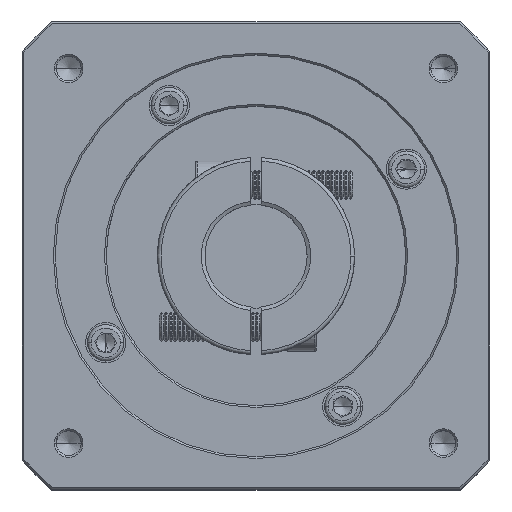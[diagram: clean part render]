
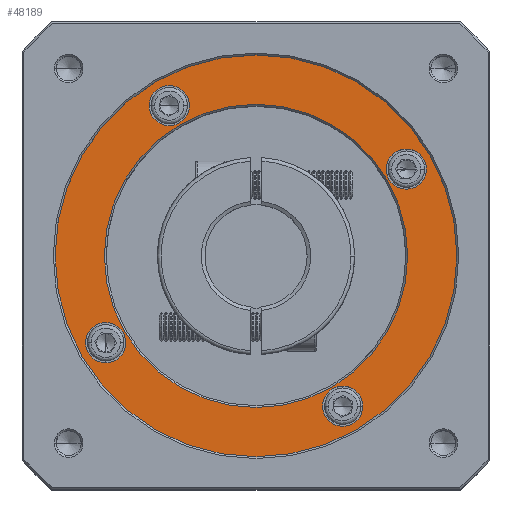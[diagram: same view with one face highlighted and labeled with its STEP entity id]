
A CAD part, top view. The second image highlights one B-rep face of the part: STEP entity #48189.
In plain terms, the highlighted planar face has unit normal (0, 0, 1).
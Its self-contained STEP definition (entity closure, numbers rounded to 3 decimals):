
#587 = DIRECTION ( 'NONE',  ( 1., 0., 0. ) ) ;
#1358 = DIRECTION ( 'NONE',  ( 0., 0., -1. ) ) ;
#3882 = CARTESIAN_POINT ( 'NONE',  ( 74.231, 95.041, 47.529 ) ) ;
#5297 = CARTESIAN_POINT ( 'NONE',  ( 79.731, 95.041, 47.529 ) ) ;
#5452 = EDGE_CURVE ( 'NONE', #39213, #117343, #94043, .T. ) ;
#5531 = EDGE_LOOP ( 'NONE', ( #5865, #23266 ) ) ;
#5865 = ORIENTED_EDGE ( 'NONE', *, *, #121390, .T. ) ;
#7328 = DIRECTION ( 'NONE',  ( 1., 0., 0. ) ) ;
#7560 = VERTEX_POINT ( 'NONE', #81261 ) ;
#9193 = ORIENTED_EDGE ( 'NONE', *, *, #68156, .T. ) ;
#9591 = AXIS2_PLACEMENT_3D ( 'NONE', #13421, #79156, #22858 ) ;
#11738 = ORIENTED_EDGE ( 'NONE', *, *, #38618, .T. ) ;
#11871 = EDGE_CURVE ( 'NONE', #39152, #7560, #29985, .T. ) ;
#12144 = EDGE_CURVE ( 'NONE', #103156, #67720, #71012, .T. ) ;
#12793 = CIRCLE ( 'NONE', #66759, 5.5 ) ;
#13200 = FACE_BOUND ( 'NONE', #16030, .T. ) ;
#13264 = CARTESIAN_POINT ( 'NONE',  ( 0.981, 136.177, 47.529 ) ) ;
#13421 = CARTESIAN_POINT ( 'NONE',  ( 14.845, 112.427, 47.529 ) ) ;
#14283 = CARTESIAN_POINT ( 'NONE',  ( 110.981, 136.177, 47.529 ) ) ;
#14832 = DIRECTION ( 'NONE',  ( 1., 0., 0. ) ) ;
#16030 = EDGE_LOOP ( 'NONE', ( #52999, #86017 ) ) ;
#16092 = AXIS2_PLACEMENT_3D ( 'NONE', #57709, #1358, #67164 ) ;
#16164 = FACE_OUTER_BOUND ( 'NONE', #111910, .T. ) ;
#18533 = EDGE_LOOP ( 'NONE', ( #35061, #60954 ) ) ;
#20406 = AXIS2_PLACEMENT_3D ( 'NONE', #41800, #107609, #51241 ) ;
#22858 = DIRECTION ( 'NONE',  ( 1., 0., 0. ) ) ;
#23166 = CARTESIAN_POINT ( 'NONE',  ( 14.845, 112.427, 47.529 ) ) ;
#23266 = ORIENTED_EDGE ( 'NONE', *, *, #73211, .T. ) ;
#23853 = CARTESIAN_POINT ( 'NONE',  ( 55.981, 136.177, 47.529 ) ) ;
#26118 = AXIS2_PLACEMENT_3D ( 'NONE', #47380, #113088, #56832 ) ;
#27376 = CARTESIAN_POINT ( 'NONE',  ( 85.231, 95.041, 47.529 ) ) ;
#28488 = DIRECTION ( 'NONE',  ( 0., 0., -1. ) ) ;
#28792 = VERTEX_POINT ( 'NONE', #83434 ) ;
#29985 = CIRCLE ( 'NONE', #81204, 5.5 ) ;
#31742 = VERTEX_POINT ( 'NONE', #100486 ) ;
#32606 = DIRECTION ( 'NONE',  ( 1., 0., 0. ) ) ;
#33222 = EDGE_CURVE ( 'NONE', #28792, #79262, #68910, .T. ) ;
#33309 = DIRECTION ( 'NONE',  ( 1., 0., 0. ) ) ;
#35061 = ORIENTED_EDGE ( 'NONE', *, *, #5452, .T. ) ;
#38178 = FACE_BOUND ( 'NONE', #83031, .T. ) ;
#38618 = EDGE_CURVE ( 'NONE', #45064, #117062, #39367, .T. ) ;
#39152 = VERTEX_POINT ( 'NONE', #41777 ) ;
#39213 = VERTEX_POINT ( 'NONE', #118586 ) ;
#39367 = CIRCLE ( 'NONE', #49301, 5.5 ) ;
#40053 = DIRECTION ( 'NONE',  ( 0., 0., -1. ) ) ;
#41777 = CARTESIAN_POINT ( 'NONE',  ( 37.731, 177.313, 47.529 ) ) ;
#41800 = CARTESIAN_POINT ( 'NONE',  ( 55.981, 136.177, 47.529 ) ) ;
#42487 = CARTESIAN_POINT ( 'NONE',  ( 32.231, 177.313, 47.529 ) ) ;
#42885 = CIRCLE ( 'NONE', #20406, 55. ) ;
#45041 = CARTESIAN_POINT ( 'NONE',  ( 97.118, 159.927, 47.529 ) ) ;
#45064 = VERTEX_POINT ( 'NONE', #3882 ) ;
#46594 = CIRCLE ( 'NONE', #111797, 41.5 ) ;
#47380 = CARTESIAN_POINT ( 'NONE',  ( 55.981, 136.177, 47.529 ) ) ;
#47810 = CARTESIAN_POINT ( 'NONE',  ( 97.481, 136.177, 47.529 ) ) ;
#48189 = ADVANCED_FACE ( 'NONE', ( #16164, #38178, #91143, #13200, #110238, #85257 ), #75417, .T. ) ;
#49301 = AXIS2_PLACEMENT_3D ( 'NONE', #5297, #71093, #14832 ) ;
#50734 = CIRCLE ( 'NONE', #55162, 5.5 ) ;
#51241 = DIRECTION ( 'NONE',  ( 1., 0., 0. ) ) ;
#51916 = DIRECTION ( 'NONE',  ( 1., 0., 0. ) ) ;
#52999 = ORIENTED_EDGE ( 'NONE', *, *, #11871, .T. ) ;
#54518 = DIRECTION ( 'NONE',  ( 1., 0., 0. ) ) ;
#55162 = AXIS2_PLACEMENT_3D ( 'NONE', #96329, #40053, #105849 ) ;
#56832 = DIRECTION ( 'NONE',  ( 1., 0., 0. ) ) ;
#56910 = DIRECTION ( 'NONE',  ( 0., 0., 1. ) ) ;
#57709 = CARTESIAN_POINT ( 'NONE',  ( 32.231, 177.313, 47.529 ) ) ;
#60954 = ORIENTED_EDGE ( 'NONE', *, *, #61107, .T. ) ;
#61107 = EDGE_CURVE ( 'NONE', #117343, #39213, #12793, .T. ) ;
#61491 = EDGE_LOOP ( 'NONE', ( #111939, #11738 ) ) ;
#62244 = CIRCLE ( 'NONE', #16092, 5.5 ) ;
#63648 = DIRECTION ( 'NONE',  ( 0., 0., -1. ) ) ;
#66759 = AXIS2_PLACEMENT_3D ( 'NONE', #23166, #88914, #32606 ) ;
#67164 = DIRECTION ( 'NONE',  ( 1., 0., 0. ) ) ;
#67720 = VERTEX_POINT ( 'NONE', #13264 ) ;
#68156 = EDGE_CURVE ( 'NONE', #79262, #28792, #46594, .T. ) ;
#68910 = CIRCLE ( 'NONE', #118149, 41.5 ) ;
#69576 = CARTESIAN_POINT ( 'NONE',  ( 9.345, 112.427, 47.529 ) ) ;
#71012 = CIRCLE ( 'NONE', #26118, 55. ) ;
#71093 = DIRECTION ( 'NONE',  ( 0., 0., -1. ) ) ;
#73211 = EDGE_CURVE ( 'NONE', #85278, #31742, #111861, .T. ) ;
#75063 = CIRCLE ( 'NONE', #117017, 5.5 ) ;
#75417 = PLANE ( 'NONE',  #115866 ) ;
#79156 = DIRECTION ( 'NONE',  ( 0., 0., -1. ) ) ;
#79254 = ORIENTED_EDGE ( 'NONE', *, *, #12144, .T. ) ;
#79262 = VERTEX_POINT ( 'NONE', #47810 ) ;
#80400 = ORIENTED_EDGE ( 'NONE', *, *, #110658, .T. ) ;
#81204 = AXIS2_PLACEMENT_3D ( 'NONE', #42487, #108252, #51916 ) ;
#81261 = CARTESIAN_POINT ( 'NONE',  ( 26.731, 177.313, 47.529 ) ) ;
#81968 = EDGE_CURVE ( 'NONE', #117062, #45064, #50734, .T. ) ;
#83031 = EDGE_LOOP ( 'NONE', ( #9193, #106771 ) ) ;
#83434 = CARTESIAN_POINT ( 'NONE',  ( 14.481, 136.177, 47.529 ) ) ;
#84806 = CARTESIAN_POINT ( 'NONE',  ( 55.981, 136.177, 47.529 ) ) ;
#85257 = FACE_BOUND ( 'NONE', #18533, .T. ) ;
#85278 = VERTEX_POINT ( 'NONE', #111992 ) ;
#86017 = ORIENTED_EDGE ( 'NONE', *, *, #102044, .T. ) ;
#88914 = DIRECTION ( 'NONE',  ( 0., 0., -1. ) ) ;
#89612 = DIRECTION ( 'NONE',  ( 0., 0., -1. ) ) ;
#91143 = FACE_BOUND ( 'NONE', #5531, .T. ) ;
#94043 = CIRCLE ( 'NONE', #9591, 5.5 ) ;
#94233 = DIRECTION ( 'NONE',  ( 1., 0., 0. ) ) ;
#94927 = AXIS2_PLACEMENT_3D ( 'NONE', #119885, #63648, #7328 ) ;
#96329 = CARTESIAN_POINT ( 'NONE',  ( 79.731, 95.041, 47.529 ) ) ;
#100486 = CARTESIAN_POINT ( 'NONE',  ( 102.618, 159.927, 47.529 ) ) ;
#102044 = EDGE_CURVE ( 'NONE', #7560, #39152, #62244, .T. ) ;
#103156 = VERTEX_POINT ( 'NONE', #14283 ) ;
#105849 = DIRECTION ( 'NONE',  ( 1., 0., 0. ) ) ;
#106771 = ORIENTED_EDGE ( 'NONE', *, *, #33222, .T. ) ;
#107609 = DIRECTION ( 'NONE',  ( 0., 0., 1. ) ) ;
#108252 = DIRECTION ( 'NONE',  ( 0., 0., -1. ) ) ;
#110238 = FACE_BOUND ( 'NONE', #61491, .T. ) ;
#110658 = EDGE_CURVE ( 'NONE', #67720, #103156, #42885, .T. ) ;
#110821 = DIRECTION ( 'NONE',  ( 0., 0., -1. ) ) ;
#111797 = AXIS2_PLACEMENT_3D ( 'NONE', #84806, #28488, #94233 ) ;
#111861 = CIRCLE ( 'NONE', #94927, 5.5 ) ;
#111910 = EDGE_LOOP ( 'NONE', ( #79254, #80400 ) ) ;
#111939 = ORIENTED_EDGE ( 'NONE', *, *, #81968, .T. ) ;
#111992 = CARTESIAN_POINT ( 'NONE',  ( 91.618, 159.927, 47.529 ) ) ;
#113088 = DIRECTION ( 'NONE',  ( 0., 0., 1. ) ) ;
#113170 = CARTESIAN_POINT ( 'NONE',  ( 55.981, 136.177, 47.529 ) ) ;
#115866 = AXIS2_PLACEMENT_3D ( 'NONE', #113170, #56910, #587 ) ;
#117017 = AXIS2_PLACEMENT_3D ( 'NONE', #45041, #110821, #54518 ) ;
#117062 = VERTEX_POINT ( 'NONE', #27376 ) ;
#117343 = VERTEX_POINT ( 'NONE', #69576 ) ;
#118149 = AXIS2_PLACEMENT_3D ( 'NONE', #23853, #89612, #33309 ) ;
#118586 = CARTESIAN_POINT ( 'NONE',  ( 20.345, 112.427, 47.529 ) ) ;
#119885 = CARTESIAN_POINT ( 'NONE',  ( 97.118, 159.927, 47.529 ) ) ;
#121390 = EDGE_CURVE ( 'NONE', #31742, #85278, #75063, .T. ) ;
